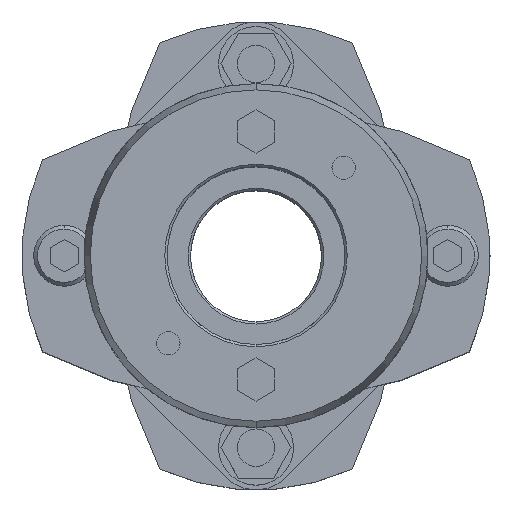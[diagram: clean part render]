
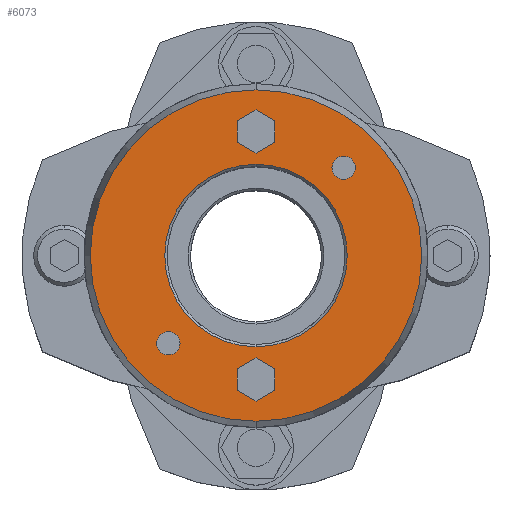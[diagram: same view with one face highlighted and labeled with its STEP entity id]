
A CAD part, top view. The second image highlights one B-rep face of the part: STEP entity #6073.
In plain terms, the highlighted planar face has unit normal (0, 0, 1).
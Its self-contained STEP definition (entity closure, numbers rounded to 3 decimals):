
#1677=CARTESIAN_POINT('',(0.,19.5,55.5));
#1678=VERTEX_POINT('',#1677);
#1694=CARTESIAN_POINT('',(0.,-19.5,55.5));
#1695=VERTEX_POINT('',#1694);
#1702=CARTESIAN_POINT('',(0.,0.,55.5));
#1703=DIRECTION('',(0.0,0.0,1.0));
#1704=DIRECTION('',(0.0,1.0,0.0));
#1705=AXIS2_PLACEMENT_3D('',#1702,#1703,#1704);
#1706=CIRCLE('',#1705,19.5);
#1707=EDGE_CURVE('',#1695,#1678,#1706,.T.);
#1823=CARTESIAN_POINT('',(0.,-35.41,55.5));
#1824=VERTEX_POINT('',#1823);
#1833=CARTESIAN_POINT('',(0.,35.41,55.5));
#1834=VERTEX_POINT('',#1833);
#1835=CARTESIAN_POINT('',(0.,0.,55.5));
#1836=DIRECTION('',(0.0,0.0,-1.0));
#1837=DIRECTION('',(0.0,-1.0,0.0));
#1838=AXIS2_PLACEMENT_3D('',#1835,#1836,#1837);
#1839=CIRCLE('',#1838,35.41);
#1840=EDGE_CURVE('',#1824,#1834,#1839,.T.);
#2009=CARTESIAN_POINT('',(18.738,21.238,55.5));
#2010=VERTEX_POINT('',#2009);
#2026=CARTESIAN_POINT('',(18.738,16.238,55.5));
#2027=VERTEX_POINT('',#2026);
#2034=CARTESIAN_POINT('',(18.738,18.738,55.5));
#2035=DIRECTION('',(0.0,0.0,-1.0));
#2036=DIRECTION('',(0.0,1.0,0.0));
#2037=AXIS2_PLACEMENT_3D('',#2034,#2035,#2036);
#2038=CIRCLE('',#2037,2.5);
#2039=EDGE_CURVE('',#2010,#2027,#2038,.T.);
#2051=CARTESIAN_POINT('',(-18.738,-16.238,55.5));
#2052=VERTEX_POINT('',#2051);
#2068=CARTESIAN_POINT('',(-18.738,-21.238,55.5));
#2069=VERTEX_POINT('',#2068);
#2076=CARTESIAN_POINT('',(-18.738,-18.738,55.5));
#2077=DIRECTION('',(0.0,0.0,-1.0));
#2078=DIRECTION('',(0.0,1.0,0.0));
#2079=AXIS2_PLACEMENT_3D('',#2076,#2077,#2078);
#2080=CIRCLE('',#2079,2.5);
#2081=EDGE_CURVE('',#2052,#2069,#2080,.T.);
#5199=CARTESIAN_POINT('',(0.,-21.881,55.5));
#5200=VERTEX_POINT('',#5199);
#5207=CARTESIAN_POINT('',(-4.,-24.191,55.5));
#5208=VERTEX_POINT('',#5207);
#5209=CARTESIAN_POINT('',(-4.,-24.191,55.5));
#5210=DIRECTION('',(0.866,0.5,0.0));
#5211=VECTOR('',#5210,4.619);
#5212=LINE('',#5209,#5211);
#5213=EDGE_CURVE('',#5208,#5200,#5212,.T.);
#5237=CARTESIAN_POINT('',(4.,-24.191,55.5));
#5238=VERTEX_POINT('',#5237);
#5245=CARTESIAN_POINT('',(0.,-21.881,55.5));
#5246=DIRECTION('',(0.866,-0.5,0.0));
#5247=VECTOR('',#5246,4.619);
#5248=LINE('',#5245,#5247);
#5249=EDGE_CURVE('',#5200,#5238,#5248,.T.);
#5268=CARTESIAN_POINT('',(4.,-28.809,55.5));
#5269=VERTEX_POINT('',#5268);
#5276=CARTESIAN_POINT('',(4.,-24.191,55.5));
#5277=DIRECTION('',(0.0,-1.0,0.0));
#5278=VECTOR('',#5277,4.619);
#5279=LINE('',#5276,#5278);
#5280=EDGE_CURVE('',#5238,#5269,#5279,.T.);
#5299=CARTESIAN_POINT('',(0.,-31.119,55.5));
#5300=VERTEX_POINT('',#5299);
#5307=CARTESIAN_POINT('',(4.,-28.809,55.5));
#5308=DIRECTION('',(-0.866,-0.5,0.0));
#5309=VECTOR('',#5308,4.619);
#5310=LINE('',#5307,#5309);
#5311=EDGE_CURVE('',#5269,#5300,#5310,.T.);
#5330=CARTESIAN_POINT('',(-4.,-28.809,55.5));
#5331=VERTEX_POINT('',#5330);
#5338=CARTESIAN_POINT('',(0.,-31.119,55.5));
#5339=DIRECTION('',(-0.866,0.5,0.0));
#5340=VECTOR('',#5339,4.619);
#5341=LINE('',#5338,#5340);
#5342=EDGE_CURVE('',#5300,#5331,#5341,.T.);
#5360=CARTESIAN_POINT('',(-4.,-28.809,55.5));
#5361=DIRECTION('',(0.0,1.0,0.0));
#5362=VECTOR('',#5361,4.619);
#5363=LINE('',#5360,#5362);
#5364=EDGE_CURVE('',#5331,#5208,#5363,.T.);
#5399=CARTESIAN_POINT('',(0.,31.119,55.5));
#5400=VERTEX_POINT('',#5399);
#5407=CARTESIAN_POINT('',(-4.,28.809,55.5));
#5408=VERTEX_POINT('',#5407);
#5409=CARTESIAN_POINT('',(-4.,28.809,55.5));
#5410=DIRECTION('',(0.866,0.5,0.0));
#5411=VECTOR('',#5410,4.619);
#5412=LINE('',#5409,#5411);
#5413=EDGE_CURVE('',#5408,#5400,#5412,.T.);
#5437=CARTESIAN_POINT('',(4.,28.809,55.5));
#5438=VERTEX_POINT('',#5437);
#5445=CARTESIAN_POINT('',(0.,31.119,55.5));
#5446=DIRECTION('',(0.866,-0.5,0.0));
#5447=VECTOR('',#5446,4.619);
#5448=LINE('',#5445,#5447);
#5449=EDGE_CURVE('',#5400,#5438,#5448,.T.);
#5468=CARTESIAN_POINT('',(4.,24.191,55.5));
#5469=VERTEX_POINT('',#5468);
#5476=CARTESIAN_POINT('',(4.,28.809,55.5));
#5477=DIRECTION('',(0.0,-1.0,0.0));
#5478=VECTOR('',#5477,4.619);
#5479=LINE('',#5476,#5478);
#5480=EDGE_CURVE('',#5438,#5469,#5479,.T.);
#5499=CARTESIAN_POINT('',(0.,21.881,55.5));
#5500=VERTEX_POINT('',#5499);
#5507=CARTESIAN_POINT('',(4.,24.191,55.5));
#5508=DIRECTION('',(-0.866,-0.5,0.0));
#5509=VECTOR('',#5508,4.619);
#5510=LINE('',#5507,#5509);
#5511=EDGE_CURVE('',#5469,#5500,#5510,.T.);
#5530=CARTESIAN_POINT('',(-4.,24.191,55.5));
#5531=VERTEX_POINT('',#5530);
#5538=CARTESIAN_POINT('',(0.,21.881,55.5));
#5539=DIRECTION('',(-0.866,0.5,0.0));
#5540=VECTOR('',#5539,4.619);
#5541=LINE('',#5538,#5540);
#5542=EDGE_CURVE('',#5500,#5531,#5541,.T.);
#5560=CARTESIAN_POINT('',(-4.,24.191,55.5));
#5561=DIRECTION('',(0.0,1.0,0.0));
#5562=VECTOR('',#5561,4.619);
#5563=LINE('',#5560,#5562);
#5564=EDGE_CURVE('',#5531,#5408,#5563,.T.);
#5590=CARTESIAN_POINT('',(-18.738,-18.738,55.5));
#5591=DIRECTION('',(0.0,0.0,-1.0));
#5592=DIRECTION('',(0.0,1.0,0.0));
#5593=AXIS2_PLACEMENT_3D('',#5590,#5591,#5592);
#5594=CIRCLE('',#5593,2.5);
#5595=EDGE_CURVE('',#2069,#2052,#5594,.T.);
#5624=CARTESIAN_POINT('',(18.738,18.738,55.5));
#5625=DIRECTION('',(0.0,0.0,-1.0));
#5626=DIRECTION('',(0.0,1.0,0.0));
#5627=AXIS2_PLACEMENT_3D('',#5624,#5625,#5626);
#5628=CIRCLE('',#5627,2.5);
#5629=EDGE_CURVE('',#2027,#2010,#5628,.T.);
#6020=CARTESIAN_POINT('',(0.,0.,55.5));
#6021=DIRECTION('',(0.0,0.0,-1.0));
#6022=DIRECTION('',(0.0,-1.0,0.0));
#6023=AXIS2_PLACEMENT_3D('',#6020,#6021,#6022);
#6024=CIRCLE('',#6023,35.41);
#6025=EDGE_CURVE('',#1834,#1824,#6024,.T.);
#6030=CARTESIAN_POINT('',(0.,3.341,55.5));
#6031=DIRECTION('',(0.0,0.0,1.0));
#6032=DIRECTION('',(0.0,1.0,0.0));
#6033=AXIS2_PLACEMENT_3D('',#6030,#6031,#6032);
#6034=PLANE('',#6033);
#6035=ORIENTED_EDGE('',*,*,#6025,.F.);
#6036=ORIENTED_EDGE('',*,*,#1840,.F.);
#6037=EDGE_LOOP('',(#6035,#6036));
#6038=FACE_OUTER_BOUND('',#6037,.T.);
#6039=ORIENTED_EDGE('',*,*,#5213,.T.);
#6040=ORIENTED_EDGE('',*,*,#5249,.T.);
#6041=ORIENTED_EDGE('',*,*,#5280,.T.);
#6042=ORIENTED_EDGE('',*,*,#5311,.T.);
#6043=ORIENTED_EDGE('',*,*,#5342,.T.);
#6044=ORIENTED_EDGE('',*,*,#5364,.T.);
#6045=EDGE_LOOP('',(#6039,#6040,#6041,#6042,#6043,#6044));
#6046=FACE_BOUND('',#6045,.T.);
#6047=ORIENTED_EDGE('',*,*,#5413,.T.);
#6048=ORIENTED_EDGE('',*,*,#5449,.T.);
#6049=ORIENTED_EDGE('',*,*,#5480,.T.);
#6050=ORIENTED_EDGE('',*,*,#5511,.T.);
#6051=ORIENTED_EDGE('',*,*,#5542,.T.);
#6052=ORIENTED_EDGE('',*,*,#5564,.T.);
#6053=EDGE_LOOP('',(#6047,#6048,#6049,#6050,#6051,#6052));
#6054=FACE_BOUND('',#6053,.T.);
#6055=ORIENTED_EDGE('',*,*,#2081,.T.);
#6056=ORIENTED_EDGE('',*,*,#5595,.T.);
#6057=EDGE_LOOP('',(#6055,#6056));
#6058=FACE_BOUND('',#6057,.T.);
#6059=ORIENTED_EDGE('',*,*,#2039,.T.);
#6060=ORIENTED_EDGE('',*,*,#5629,.T.);
#6061=EDGE_LOOP('',(#6059,#6060));
#6062=FACE_BOUND('',#6061,.T.);
#6063=ORIENTED_EDGE('',*,*,#1707,.F.);
#6064=CARTESIAN_POINT('',(0.,0.,55.5));
#6065=DIRECTION('',(0.0,0.0,1.0));
#6066=DIRECTION('',(0.0,1.0,0.0));
#6067=AXIS2_PLACEMENT_3D('',#6064,#6065,#6066);
#6068=CIRCLE('',#6067,19.5);
#6069=EDGE_CURVE('',#1678,#1695,#6068,.T.);
#6070=ORIENTED_EDGE('',*,*,#6069,.F.);
#6071=EDGE_LOOP('',(#6063,#6070));
#6072=FACE_BOUND('',#6071,.T.);
#6073=ADVANCED_FACE('',(#6038,#6046,#6054,#6058,#6062,#6072),#6034,.T.);
